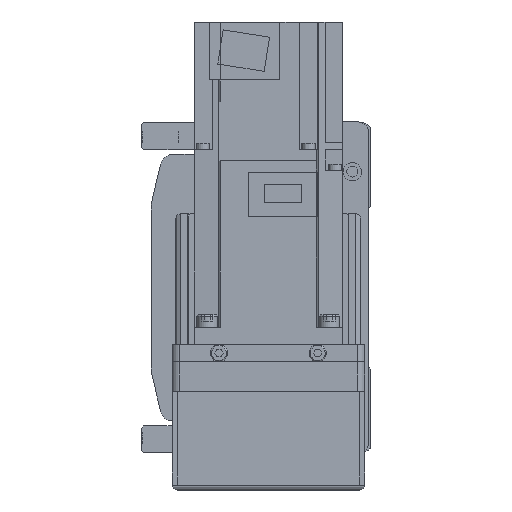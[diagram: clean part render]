
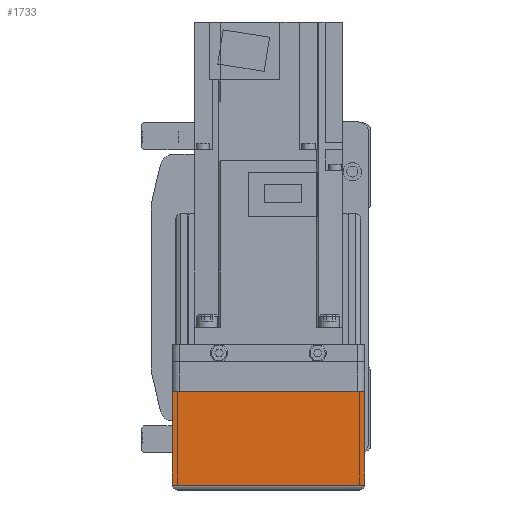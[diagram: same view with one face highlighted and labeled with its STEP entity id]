
A CAD part, left-side view. The second image highlights one B-rep face of the part: STEP entity #1733.
In plain terms, the highlighted planar face has unit normal (-1, 0, 0).
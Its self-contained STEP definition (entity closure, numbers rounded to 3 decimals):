
#1733 = ADVANCED_FACE( '', ( #4317 ), #4318, .F. );
#4317 = FACE_OUTER_BOUND( '', #7945, .T. );
#4318 = PLANE( '', #7946 );
#7945 = EDGE_LOOP( '', ( #12930, #12931, #12932, #12933 ) );
#7946 = AXIS2_PLACEMENT_3D( '', #12934, #12935, #12936 );
#12930 = ORIENTED_EDGE( '', *, *, #21649, .F. );
#12931 = ORIENTED_EDGE( '', *, *, #21650, .F. );
#12932 = ORIENTED_EDGE( '', *, *, #20731, .T. );
#12933 = ORIENTED_EDGE( '', *, *, #21651, .F. );
#12934 = CARTESIAN_POINT( '', ( -158., 36., 7. ) );
#12935 = DIRECTION( '', ( 1., 0., 0. ) );
#12936 = DIRECTION( '', ( 0., 0., -1. ) );
#20731 = EDGE_CURVE( '', #24758, #24763, #24765, .T. );
#21649 = EDGE_CURVE( '', #26333, #26334, #26335, .T. );
#21650 = EDGE_CURVE( '', #24758, #26333, #26336, .T. );
#21651 = EDGE_CURVE( '', #26334, #24763, #26337, .T. );
#24758 = VERTEX_POINT( '', #30665 );
#24763 = VERTEX_POINT( '', #30671 );
#24765 = LINE( '', #30673, #30674 );
#26333 = VERTEX_POINT( '', #33040 );
#26334 = VERTEX_POINT( '', #33041 );
#26335 = LINE( '', #33042, #33043 );
#26336 = LINE( '', #33044, #33045 );
#26337 = LINE( '', #33046, #33047 );
#30665 = CARTESIAN_POINT( '', ( -158., 39., -50. ) );
#30671 = CARTESIAN_POINT( '', ( -158., -39., -50. ) );
#30673 = CARTESIAN_POINT( '', ( -158., 40., -50. ) );
#30674 = VECTOR( '', #38667, 1000. );
#33040 = CARTESIAN_POINT( '', ( -158., 39., -12.1 ) );
#33041 = CARTESIAN_POINT( '', ( -158., -39., -12.1 ) );
#33042 = CARTESIAN_POINT( '', ( -158., 50., -12.1 ) );
#33043 = VECTOR( '', #39882, 1000. );
#33044 = CARTESIAN_POINT( '', ( -158., 39., -50. ) );
#33045 = VECTOR( '', #39883, 1000. );
#33046 = CARTESIAN_POINT( '', ( -158., -39., -12.1 ) );
#33047 = VECTOR( '', #39884, 1000. );
#38667 = DIRECTION( '', ( 0., -1., 0. ) );
#39882 = DIRECTION( '', ( 0., -1., 0. ) );
#39883 = DIRECTION( '', ( 0., 0., 1. ) );
#39884 = DIRECTION( '', ( 0., 0., -1. ) );
